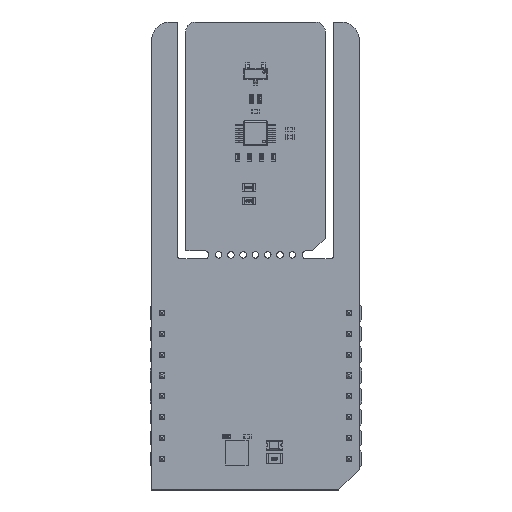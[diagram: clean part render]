
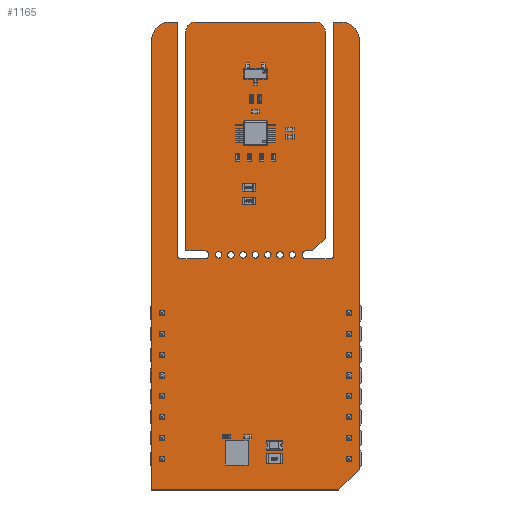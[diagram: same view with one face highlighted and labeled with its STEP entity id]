
A CAD part, top view. The second image highlights one B-rep face of the part: STEP entity #1165.
In plain terms, the highlighted planar face has unit normal (0, 0, 1).
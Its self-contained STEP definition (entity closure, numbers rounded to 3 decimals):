
#128 = VERTEX_POINT('',#129);
#129 = CARTESIAN_POINT('',(1.905,24.8,1.59));
#135 = EDGE_CURVE('',#128,#136,#138,.T.);
#136 = VERTEX_POINT('',#137);
#137 = CARTESIAN_POINT('',(2.305,24.4,1.59));
#138 = CIRCLE('',#139,0.399);
#139 = AXIS2_PLACEMENT_3D('',#140,#141,#142);
#140 = CARTESIAN_POINT('',(2.304,24.799,1.59));
#141 = DIRECTION('',(0.,0.,1.));
#142 = DIRECTION('',(-1.,0.001,0.));
#168 = EDGE_CURVE('',#136,#169,#171,.T.);
#169 = VERTEX_POINT('',#170);
#170 = CARTESIAN_POINT('',(5.23,24.4,1.59));
#171 = LINE('',#172,#173);
#172 = CARTESIAN_POINT('',(2.305,24.4,1.59));
#173 = VECTOR('',#174,1.);
#174 = DIRECTION('',(1.,0.,0.));
#199 = EDGE_CURVE('',#169,#200,#202,.T.);
#200 = VERTEX_POINT('',#201);
#201 = CARTESIAN_POINT('',(5.23,25.4,1.59));
#202 = CIRCLE('',#203,0.5);
#203 = AXIS2_PLACEMENT_3D('',#204,#205,#206);
#204 = CARTESIAN_POINT('',(5.23,24.9,1.59));
#205 = DIRECTION('',(0.,0.,1.));
#206 = DIRECTION('',(-0.,-1.,0.));
#232 = EDGE_CURVE('',#200,#233,#235,.T.);
#233 = VERTEX_POINT('',#234);
#234 = CARTESIAN_POINT('',(2.921,25.4,1.59));
#235 = LINE('',#236,#237);
#236 = CARTESIAN_POINT('',(5.23,25.4,1.59));
#237 = VECTOR('',#238,1.);
#238 = DIRECTION('',(-1.,0.,0.));
#263 = EDGE_CURVE('',#233,#264,#266,.T.);
#264 = VERTEX_POINT('',#265);
#265 = CARTESIAN_POINT('',(2.921,52.197,1.59));
#266 = LINE('',#267,#268);
#267 = CARTESIAN_POINT('',(2.921,25.4,1.59));
#268 = VECTOR('',#269,1.);
#269 = DIRECTION('',(0.,1.,0.));
#294 = EDGE_CURVE('',#264,#295,#297,.T.);
#295 = VERTEX_POINT('',#296);
#296 = CARTESIAN_POINT('',(4.064,53.34,1.59));
#297 = CIRCLE('',#298,1.144);
#298 = AXIS2_PLACEMENT_3D('',#299,#300,#301);
#299 = CARTESIAN_POINT('',(4.065,52.196,1.59));
#300 = DIRECTION('',(0.,0.,-1.));
#301 = DIRECTION('',(-1.,0.001,0.));
#327 = EDGE_CURVE('',#295,#328,#330,.T.);
#328 = VERTEX_POINT('',#329);
#329 = CARTESIAN_POINT('',(18.796,53.34,1.59));
#330 = LINE('',#331,#332);
#331 = CARTESIAN_POINT('',(4.064,53.34,1.59));
#332 = VECTOR('',#333,1.);
#333 = DIRECTION('',(1.,0.,0.));
#358 = EDGE_CURVE('',#328,#359,#361,.T.);
#359 = VERTEX_POINT('',#360);
#360 = CARTESIAN_POINT('',(19.939,52.197,1.59));
#361 = CIRCLE('',#362,1.144);
#362 = AXIS2_PLACEMENT_3D('',#363,#364,#365);
#363 = CARTESIAN_POINT('',(18.795,52.196,1.59));
#364 = DIRECTION('',(0.,0.,-1.));
#365 = DIRECTION('',(0.001,1.,0.));
#391 = EDGE_CURVE('',#359,#392,#394,.T.);
#392 = VERTEX_POINT('',#393);
#393 = CARTESIAN_POINT('',(19.939,26.924,1.59));
#394 = LINE('',#395,#396);
#395 = CARTESIAN_POINT('',(19.939,52.197,1.59));
#396 = VECTOR('',#397,1.);
#397 = DIRECTION('',(0.,-1.,0.));
#422 = EDGE_CURVE('',#392,#423,#425,.T.);
#423 = VERTEX_POINT('',#424);
#424 = CARTESIAN_POINT('',(18.415,25.4,1.59));
#425 = LINE('',#426,#427);
#426 = CARTESIAN_POINT('',(19.939,26.924,1.59));
#427 = VECTOR('',#428,1.);
#428 = DIRECTION('',(-0.707,-0.707,0.));
#453 = EDGE_CURVE('',#423,#454,#456,.T.);
#454 = VERTEX_POINT('',#455);
#455 = CARTESIAN_POINT('',(17.63,25.4,1.59));
#456 = LINE('',#457,#458);
#457 = CARTESIAN_POINT('',(18.415,25.4,1.59));
#458 = VECTOR('',#459,1.);
#459 = DIRECTION('',(-1.,0.,0.));
#484 = EDGE_CURVE('',#454,#485,#487,.T.);
#485 = VERTEX_POINT('',#486);
#486 = CARTESIAN_POINT('',(17.63,24.4,1.59));
#487 = CIRCLE('',#488,0.5);
#488 = AXIS2_PLACEMENT_3D('',#489,#490,#491);
#489 = CARTESIAN_POINT('',(17.63,24.9,1.59));
#490 = DIRECTION('',(0.,-0.,1.));
#491 = DIRECTION('',(0.,1.,0.));
#517 = EDGE_CURVE('',#485,#518,#520,.T.);
#518 = VERTEX_POINT('',#519);
#519 = CARTESIAN_POINT('',(20.555,24.4,1.59));
#520 = LINE('',#521,#522);
#521 = CARTESIAN_POINT('',(17.63,24.4,1.59));
#522 = VECTOR('',#523,1.);
#523 = DIRECTION('',(1.,0.,0.));
#548 = EDGE_CURVE('',#518,#549,#551,.T.);
#549 = VERTEX_POINT('',#550);
#550 = CARTESIAN_POINT('',(20.955,24.8,1.59));
#551 = CIRCLE('',#552,0.399);
#552 = AXIS2_PLACEMENT_3D('',#553,#554,#555);
#553 = CARTESIAN_POINT('',(20.556,24.799,1.59));
#554 = DIRECTION('',(0.,0.,1.));
#555 = DIRECTION('',(-0.001,-1.,0.));
#581 = EDGE_CURVE('',#549,#582,#584,.T.);
#582 = VERTEX_POINT('',#583);
#583 = CARTESIAN_POINT('',(20.955,53.34,1.59));
#584 = LINE('',#585,#586);
#585 = CARTESIAN_POINT('',(20.955,24.8,1.59));
#586 = VECTOR('',#587,1.);
#587 = DIRECTION('',(0.,1.,0.));
#612 = EDGE_CURVE('',#582,#613,#615,.T.);
#613 = VERTEX_POINT('',#614);
#614 = CARTESIAN_POINT('',(21.844,53.34,1.59));
#615 = LINE('',#616,#617);
#616 = CARTESIAN_POINT('',(20.955,53.34,1.59));
#617 = VECTOR('',#618,1.);
#618 = DIRECTION('',(1.,0.,0.));
#643 = EDGE_CURVE('',#613,#644,#646,.T.);
#644 = VERTEX_POINT('',#645);
#645 = CARTESIAN_POINT('',(24.13,51.054,1.59));
#646 = CIRCLE('',#647,2.288);
#647 = AXIS2_PLACEMENT_3D('',#648,#649,#650);
#648 = CARTESIAN_POINT('',(21.842,51.052,1.59));
#649 = DIRECTION('',(0.,0.,-1.));
#650 = DIRECTION('',(0.001,1.,0.));
#676 = EDGE_CURVE('',#644,#677,#679,.T.);
#677 = VERTEX_POINT('',#678);
#678 = CARTESIAN_POINT('',(24.13,-1.27,1.59));
#679 = LINE('',#680,#681);
#680 = CARTESIAN_POINT('',(24.13,51.054,1.59));
#681 = VECTOR('',#682,1.);
#682 = DIRECTION('',(0.,-1.,0.));
#707 = EDGE_CURVE('',#677,#708,#710,.T.);
#708 = VERTEX_POINT('',#709);
#709 = CARTESIAN_POINT('',(21.59,-3.81,1.59));
#710 = LINE('',#711,#712);
#711 = CARTESIAN_POINT('',(24.13,-1.27,1.59));
#712 = VECTOR('',#713,1.);
#713 = DIRECTION('',(-0.707,-0.707,0.));
#738 = EDGE_CURVE('',#708,#739,#741,.T.);
#739 = VERTEX_POINT('',#740);
#740 = CARTESIAN_POINT('',(-1.27,-3.81,1.59));
#741 = LINE('',#742,#743);
#742 = CARTESIAN_POINT('',(21.59,-3.81,1.59));
#743 = VECTOR('',#744,1.);
#744 = DIRECTION('',(-1.,0.,0.));
#769 = EDGE_CURVE('',#739,#770,#772,.T.);
#770 = VERTEX_POINT('',#771);
#771 = CARTESIAN_POINT('',(-1.27,51.054,1.59));
#772 = LINE('',#773,#774);
#773 = CARTESIAN_POINT('',(-1.27,-3.81,1.59));
#774 = VECTOR('',#775,1.);
#775 = DIRECTION('',(0.,1.,0.));
#800 = EDGE_CURVE('',#770,#801,#803,.T.);
#801 = VERTEX_POINT('',#802);
#802 = CARTESIAN_POINT('',(1.016,53.34,1.59));
#803 = CIRCLE('',#804,2.288);
#804 = AXIS2_PLACEMENT_3D('',#805,#806,#807);
#805 = CARTESIAN_POINT('',(1.018,51.052,1.59));
#806 = DIRECTION('',(0.,0.,-1.));
#807 = DIRECTION('',(-1.,0.001,0.));
#833 = EDGE_CURVE('',#801,#834,#836,.T.);
#834 = VERTEX_POINT('',#835);
#835 = CARTESIAN_POINT('',(1.905,53.34,1.59));
#836 = LINE('',#837,#838);
#837 = CARTESIAN_POINT('',(1.016,53.34,1.59));
#838 = VECTOR('',#839,1.);
#839 = DIRECTION('',(1.,0.,0.));
#864 = EDGE_CURVE('',#834,#128,#865,.T.);
#865 = LINE('',#866,#867);
#866 = CARTESIAN_POINT('',(1.905,53.34,1.59));
#867 = VECTOR('',#868,1.);
#868 = DIRECTION('',(0.,-1.,0.));
#888 = VERTEX_POINT('',#889);
#889 = CARTESIAN_POINT('',(7.33,24.9,1.59));
#895 = EDGE_CURVE('',#888,#888,#896,.T.);
#896 = CIRCLE('',#897,0.4);
#897 = AXIS2_PLACEMENT_3D('',#898,#899,#900);
#898 = CARTESIAN_POINT('',(6.93,24.9,1.59));
#899 = DIRECTION('',(0.,0.,1.));
#900 = DIRECTION('',(1.,0.,-0.));
#921 = VERTEX_POINT('',#922);
#922 = CARTESIAN_POINT('',(8.83,24.9,1.59));
#928 = EDGE_CURVE('',#921,#921,#929,.T.);
#929 = CIRCLE('',#930,0.4);
#930 = AXIS2_PLACEMENT_3D('',#931,#932,#933);
#931 = CARTESIAN_POINT('',(8.43,24.9,1.59));
#932 = DIRECTION('',(0.,0.,1.));
#933 = DIRECTION('',(1.,0.,-0.));
#954 = VERTEX_POINT('',#955);
#955 = CARTESIAN_POINT('',(10.33,24.9,1.59));
#961 = EDGE_CURVE('',#954,#954,#962,.T.);
#962 = CIRCLE('',#963,0.4);
#963 = AXIS2_PLACEMENT_3D('',#964,#965,#966);
#964 = CARTESIAN_POINT('',(9.93,24.9,1.59));
#965 = DIRECTION('',(0.,0.,1.));
#966 = DIRECTION('',(1.,0.,-0.));
#987 = VERTEX_POINT('',#988);
#988 = CARTESIAN_POINT('',(14.83,24.9,1.59));
#994 = EDGE_CURVE('',#987,#987,#995,.T.);
#995 = CIRCLE('',#996,0.4);
#996 = AXIS2_PLACEMENT_3D('',#997,#998,#999);
#997 = CARTESIAN_POINT('',(14.43,24.9,1.59));
#998 = DIRECTION('',(0.,0.,1.));
#999 = DIRECTION('',(1.,0.,-0.));
#1020 = VERTEX_POINT('',#1021);
#1021 = CARTESIAN_POINT('',(16.33,24.9,1.59));
#1027 = EDGE_CURVE('',#1020,#1020,#1028,.T.);
#1028 = CIRCLE('',#1029,0.4);
#1029 = AXIS2_PLACEMENT_3D('',#1030,#1031,#1032);
#1030 = CARTESIAN_POINT('',(15.93,24.9,1.59));
#1031 = DIRECTION('',(0.,0.,1.));
#1032 = DIRECTION('',(1.,0.,-0.));
#1053 = VERTEX_POINT('',#1054);
#1054 = CARTESIAN_POINT('',(11.83,24.9,1.59));
#1060 = EDGE_CURVE('',#1053,#1053,#1061,.T.);
#1061 = CIRCLE('',#1062,0.4);
#1062 = AXIS2_PLACEMENT_3D('',#1063,#1064,#1065);
#1063 = CARTESIAN_POINT('',(11.43,24.9,1.59));
#1064 = DIRECTION('',(0.,0.,1.));
#1065 = DIRECTION('',(1.,0.,-0.));
#1086 = VERTEX_POINT('',#1087);
#1087 = CARTESIAN_POINT('',(13.33,24.9,1.59));
#1093 = EDGE_CURVE('',#1086,#1086,#1094,.T.);
#1094 = CIRCLE('',#1095,0.4);
#1095 = AXIS2_PLACEMENT_3D('',#1096,#1097,#1098);
#1096 = CARTESIAN_POINT('',(12.93,24.9,1.59));
#1097 = DIRECTION('',(0.,0.,1.));
#1098 = DIRECTION('',(1.,0.,-0.));
#1165 = ADVANCED_FACE('',(#1166,#1192,#1195,#1198,#1201,#1204,#1207,
    #1210),#1213,.F.);
#1166 = FACE_BOUND('',#1167,.F.);
#1167 = EDGE_LOOP('',(#1168,#1169,#1170,#1171,#1172,#1173,#1174,#1175,
    #1176,#1177,#1178,#1179,#1180,#1181,#1182,#1183,#1184,#1185,#1186,
    #1187,#1188,#1189,#1190,#1191));
#1168 = ORIENTED_EDGE('',*,*,#135,.T.);
#1169 = ORIENTED_EDGE('',*,*,#168,.T.);
#1170 = ORIENTED_EDGE('',*,*,#199,.T.);
#1171 = ORIENTED_EDGE('',*,*,#232,.T.);
#1172 = ORIENTED_EDGE('',*,*,#263,.T.);
#1173 = ORIENTED_EDGE('',*,*,#294,.T.);
#1174 = ORIENTED_EDGE('',*,*,#327,.T.);
#1175 = ORIENTED_EDGE('',*,*,#358,.T.);
#1176 = ORIENTED_EDGE('',*,*,#391,.T.);
#1177 = ORIENTED_EDGE('',*,*,#422,.T.);
#1178 = ORIENTED_EDGE('',*,*,#453,.T.);
#1179 = ORIENTED_EDGE('',*,*,#484,.T.);
#1180 = ORIENTED_EDGE('',*,*,#517,.T.);
#1181 = ORIENTED_EDGE('',*,*,#548,.T.);
#1182 = ORIENTED_EDGE('',*,*,#581,.T.);
#1183 = ORIENTED_EDGE('',*,*,#612,.T.);
#1184 = ORIENTED_EDGE('',*,*,#643,.T.);
#1185 = ORIENTED_EDGE('',*,*,#676,.T.);
#1186 = ORIENTED_EDGE('',*,*,#707,.T.);
#1187 = ORIENTED_EDGE('',*,*,#738,.T.);
#1188 = ORIENTED_EDGE('',*,*,#769,.T.);
#1189 = ORIENTED_EDGE('',*,*,#800,.T.);
#1190 = ORIENTED_EDGE('',*,*,#833,.T.);
#1191 = ORIENTED_EDGE('',*,*,#864,.T.);
#1192 = FACE_BOUND('',#1193,.F.);
#1193 = EDGE_LOOP('',(#1194));
#1194 = ORIENTED_EDGE('',*,*,#895,.T.);
#1195 = FACE_BOUND('',#1196,.F.);
#1196 = EDGE_LOOP('',(#1197));
#1197 = ORIENTED_EDGE('',*,*,#928,.T.);
#1198 = FACE_BOUND('',#1199,.F.);
#1199 = EDGE_LOOP('',(#1200));
#1200 = ORIENTED_EDGE('',*,*,#961,.T.);
#1201 = FACE_BOUND('',#1202,.F.);
#1202 = EDGE_LOOP('',(#1203));
#1203 = ORIENTED_EDGE('',*,*,#994,.T.);
#1204 = FACE_BOUND('',#1205,.F.);
#1205 = EDGE_LOOP('',(#1206));
#1206 = ORIENTED_EDGE('',*,*,#1027,.T.);
#1207 = FACE_BOUND('',#1208,.F.);
#1208 = EDGE_LOOP('',(#1209));
#1209 = ORIENTED_EDGE('',*,*,#1060,.T.);
#1210 = FACE_BOUND('',#1211,.F.);
#1211 = EDGE_LOOP('',(#1212));
#1212 = ORIENTED_EDGE('',*,*,#1093,.T.);
#1213 = PLANE('',#1214);
#1214 = AXIS2_PLACEMENT_3D('',#1215,#1216,#1217);
#1215 = CARTESIAN_POINT('',(11.331,30.13,1.59));
#1216 = DIRECTION('',(-0.,-0.,-1.));
#1217 = DIRECTION('',(-1.,0.,0.));
